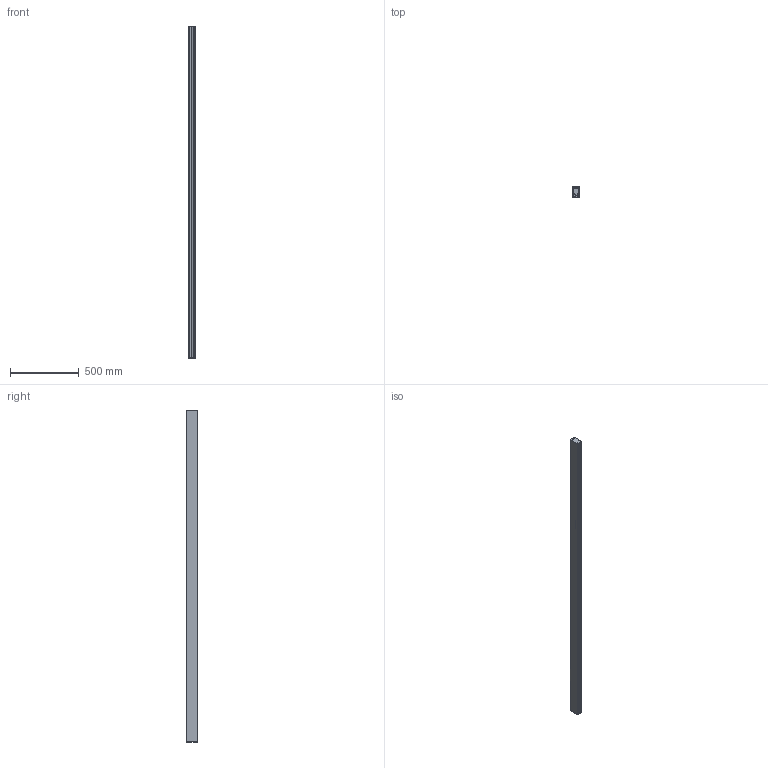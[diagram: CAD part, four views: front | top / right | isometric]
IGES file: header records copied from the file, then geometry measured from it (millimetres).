
Start section: SolidWorks IGES file using analytic representation for surfaces
Global section: file name: C:\Users\JoãoSantos\Desktop\02_3D.2D\01_2020\02_Linear\09_UW\02_Surface\UW_SURFACE_2411.IGS; native system: SolidWorks 2020; preprocessor: SolidWorks 2020; author: JoãoSantos; date: 201022.152528; units: millimetre
Bounding box: 45 x 77.5 x 2411 mm (x, y, z)
Surface area: 1425302.3 mm2 (no closed solid volume)
Topology: 0 solids, 0 shells, 232 faces, 1424 edges, 1408 vertices
Faces by surface type: bspline 163, revolution 69
